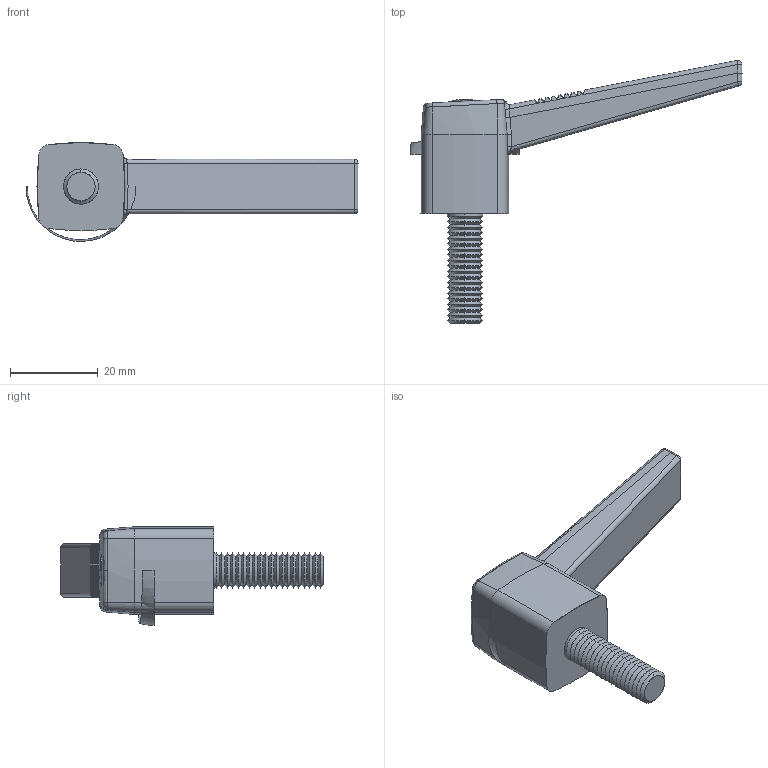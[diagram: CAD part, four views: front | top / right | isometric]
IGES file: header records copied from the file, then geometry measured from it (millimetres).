
Start section: SolidWorks IGES file using analytic representation for surfaces
Global section: file name: C:\Documents and Settings\IANO\Desktop\Temp File\Process pending\PCN pending\74970_v2\74970_v2_20161101_IGES\Default.igs; native system: SolidWorks 2009; preprocessor: SolidWorks 2009; author: IANO; date: 170306.084805; units: millimetre
Bounding box: 75.5 x 59.79 x 22.49 mm (x, y, z)
Surface area: 6222.5 mm2 (no closed solid volume)
Topology: 0 solids, 0 shells, 203 faces, 1545 edges, 1542 vertices
Faces by surface type: revolution 137, bspline 66
